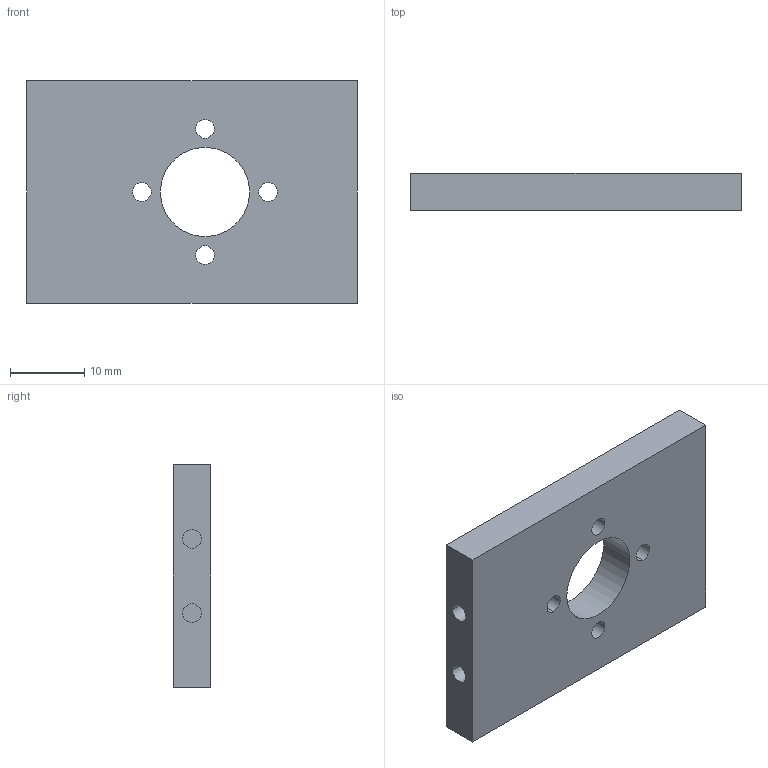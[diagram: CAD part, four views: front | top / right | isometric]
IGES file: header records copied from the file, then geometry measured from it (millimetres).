
Start section: START RECORD GO HERE.
Global section: file name: 11.igs; native system: DASSAULT SYSTEMES CATIA V5 R21 - www.3ds.com; preprocessor: CATIA Version 5 Release 21 ; author: E___; organization: MSI; date: 20160804.135503; units: millimetre
Bounding box: 44.5 x 5 x 30 mm (x, y, z)
Surface area: 3652.2 mm2 (no closed solid volume)
Topology: 0 solids, 0 shells, 28 faces, 132 edges, 132 vertices
Faces by surface type: revolution 18, plane 10
